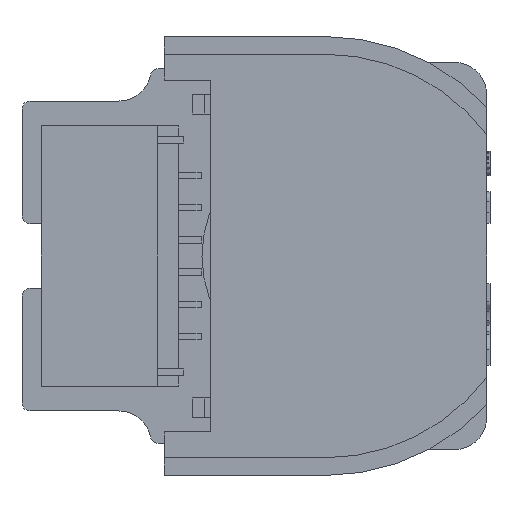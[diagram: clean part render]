
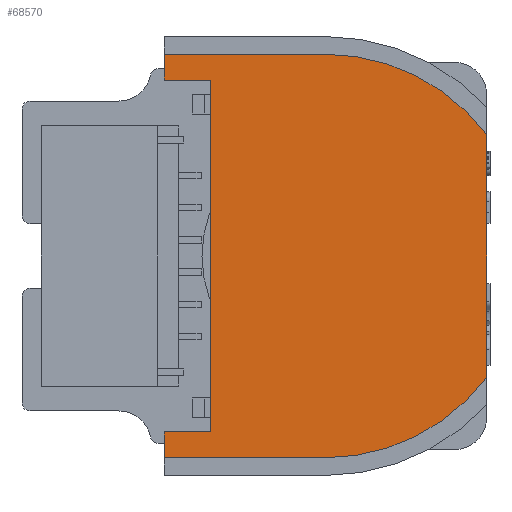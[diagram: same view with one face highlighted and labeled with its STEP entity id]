
A CAD part, left-side view. The second image highlights one B-rep face of the part: STEP entity #68570.
In plain terms, the highlighted planar face has unit normal (-1, 0, 0).
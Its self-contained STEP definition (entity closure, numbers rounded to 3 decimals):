
#908 = EDGE_CURVE ( 'NONE', #28008, #140825, #79042, .T. ) ;
#2618 = CARTESIAN_POINT ( 'NONE',  ( -23., 3.55, -5.45 ) ) ;
#6506 = CARTESIAN_POINT ( 'NONE',  ( -23., 3.55, 5.45 ) ) ;
#10343 = EDGE_LOOP ( 'NONE', ( #111006, #97991, #62967, #62134, #76486, #121813, #84095, #110837, #84216, #25051 ) ) ;
#11157 = DIRECTION ( 'NONE',  ( -1., 0., 0. ) ) ;
#11620 = DIRECTION ( 'NONE',  ( 0., 0., 1. ) ) ;
#19013 = LINE ( 'NONE', #112868, #115854 ) ;
#21356 = CARTESIAN_POINT ( 'NONE',  ( -23., 0., 6.25 ) ) ;
#21452 = CARTESIAN_POINT ( 'NONE',  ( -23., 0., 0. ) ) ;
#22709 = CARTESIAN_POINT ( 'NONE',  ( -23., 5., 5.45 ) ) ;
#25051 = ORIENTED_EDGE ( 'NONE', *, *, #143070, .T. ) ;
#26592 = VECTOR ( 'NONE', #45611, 1000. ) ;
#27750 = VERTEX_POINT ( 'NONE', #92902 ) ;
#28008 = VERTEX_POINT ( 'NONE', #2618 ) ;
#30101 = DIRECTION ( 'NONE',  ( 0., 1., 0. ) ) ;
#31515 = VERTEX_POINT ( 'NONE', #93331 ) ;
#32508 = CARTESIAN_POINT ( 'NONE',  ( -23., 0., 0. ) ) ;
#33330 = DIRECTION ( 'NONE',  ( 0., 0., 1. ) ) ;
#35892 = EDGE_CURVE ( 'NONE', #153982, #27750, #154923, .T. ) ;
#45611 = DIRECTION ( 'NONE',  ( 0., -1., 0. ) ) ;
#46400 = LINE ( 'NONE', #22709, #26592 ) ;
#52000 = CARTESIAN_POINT ( 'NONE',  ( -23., -5., -3.75 ) ) ;
#57154 = CARTESIAN_POINT ( 'NONE',  ( -23., 5., 5.45 ) ) ;
#57198 = DIRECTION ( 'NONE',  ( 0., 0., 1. ) ) ;
#58163 = DIRECTION ( 'NONE',  ( -1., 0., 0. ) ) ;
#61679 = CARTESIAN_POINT ( 'NONE',  ( -23., 5., 6. ) ) ;
#62134 = ORIENTED_EDGE ( 'NONE', *, *, #99974, .T. ) ;
#62967 = ORIENTED_EDGE ( 'NONE', *, *, #908, .T. ) ;
#63723 = AXIS2_PLACEMENT_3D ( 'NONE', #21452, #105805, #33330 ) ;
#65572 = VECTOR ( 'NONE', #90683, 1000. ) ;
#67084 = CARTESIAN_POINT ( 'NONE',  ( -23., 0., -6.25 ) ) ;
#68550 = VERTEX_POINT ( 'NONE', #132079 ) ;
#68570 = ADVANCED_FACE ( 'NONE', ( #119584 ), #70091, .T. ) ;
#69347 = EDGE_CURVE ( 'NONE', #98175, #78037, #91379, .T. ) ;
#70091 = PLANE ( 'NONE',  #151479 ) ;
#74371 = EDGE_CURVE ( 'NONE', #120304, #28008, #126252, .T. ) ;
#76486 = ORIENTED_EDGE ( 'NONE', *, *, #103421, .T. ) ;
#76771 = DIRECTION ( 'NONE',  ( 0., 0., -1. ) ) ;
#77857 = AXIS2_PLACEMENT_3D ( 'NONE', #32508, #11157, #129279 ) ;
#78037 = VERTEX_POINT ( 'NONE', #52000 ) ;
#79042 = LINE ( 'NONE', #112857, #91193 ) ;
#84095 = ORIENTED_EDGE ( 'NONE', *, *, #95075, .T. ) ;
#84216 = ORIENTED_EDGE ( 'NONE', *, *, #35892, .T. ) ;
#84314 = CARTESIAN_POINT ( 'NONE',  ( -23., 3.55, 5.45 ) ) ;
#84819 = CARTESIAN_POINT ( 'NONE',  ( -23., 5., 6.25 ) ) ;
#88745 = LINE ( 'NONE', #136653, #90816 ) ;
#90140 = EDGE_CURVE ( 'NONE', #98744, #120304, #46400, .T. ) ;
#90683 = DIRECTION ( 'NONE',  ( 0., -1., 0. ) ) ;
#90816 = VECTOR ( 'NONE', #57198, 1000. ) ;
#91193 = VECTOR ( 'NONE', #30101, 1000. ) ;
#91379 = CIRCLE ( 'NONE', #63723, 6.25 ) ;
#92902 = CARTESIAN_POINT ( 'NONE',  ( -23., 5., 6.25 ) ) ;
#93331 = CARTESIAN_POINT ( 'NONE',  ( -23., -5., 3.75 ) ) ;
#95075 = EDGE_CURVE ( 'NONE', #78037, #31515, #88745, .T. ) ;
#97991 = ORIENTED_EDGE ( 'NONE', *, *, #74371, .T. ) ;
#98175 = VERTEX_POINT ( 'NONE', #103197 ) ;
#98744 = VERTEX_POINT ( 'NONE', #57154 ) ;
#99974 = EDGE_CURVE ( 'NONE', #140825, #68550, #107357, .T. ) ;
#103197 = CARTESIAN_POINT ( 'NONE',  ( -23., 0., -6.25 ) ) ;
#103421 = EDGE_CURVE ( 'NONE', #68550, #98175, #104032, .T. ) ;
#104032 = LINE ( 'NONE', #67084, #65572 ) ;
#104175 = DIRECTION ( 'NONE',  ( 0., 0., -1. ) ) ;
#105805 = DIRECTION ( 'NONE',  ( -1., 0., 0. ) ) ;
#106574 = VECTOR ( 'NONE', #76771, 1000. ) ;
#107015 = CARTESIAN_POINT ( 'NONE',  ( -23., 0., 0. ) ) ;
#107357 = LINE ( 'NONE', #61679, #127250 ) ;
#110837 = ORIENTED_EDGE ( 'NONE', *, *, #155532, .T. ) ;
#111006 = ORIENTED_EDGE ( 'NONE', *, *, #90140, .T. ) ;
#112857 = CARTESIAN_POINT ( 'NONE',  ( -23., 3.55, -5.45 ) ) ;
#112868 = CARTESIAN_POINT ( 'NONE',  ( -23., 5., 6. ) ) ;
#115854 = VECTOR ( 'NONE', #104175, 1000. ) ;
#119584 = FACE_OUTER_BOUND ( 'NONE', #10343, .T. ) ;
#120051 = CARTESIAN_POINT ( 'NONE',  ( -23., 5., -5.45 ) ) ;
#120304 = VERTEX_POINT ( 'NONE', #84314 ) ;
#121813 = ORIENTED_EDGE ( 'NONE', *, *, #69347, .T. ) ;
#126252 = LINE ( 'NONE', #6506, #106574 ) ;
#127250 = VECTOR ( 'NONE', #145821, 1000. ) ;
#129279 = DIRECTION ( 'NONE',  ( 0., 0., 1. ) ) ;
#132079 = CARTESIAN_POINT ( 'NONE',  ( -23., 5., -6.25 ) ) ;
#132724 = DIRECTION ( 'NONE',  ( 0., 1., 0. ) ) ;
#136653 = CARTESIAN_POINT ( 'NONE',  ( -23., -5., 3.473 ) ) ;
#138323 = VECTOR ( 'NONE', #132724, 1000. ) ;
#140825 = VERTEX_POINT ( 'NONE', #120051 ) ;
#143070 = EDGE_CURVE ( 'NONE', #27750, #98744, #19013, .T. ) ;
#145821 = DIRECTION ( 'NONE',  ( 0., 0., -1. ) ) ;
#151479 = AXIS2_PLACEMENT_3D ( 'NONE', #107015, #58163, #11620 ) ;
#153298 = CIRCLE ( 'NONE', #77857, 6.25 ) ;
#153982 = VERTEX_POINT ( 'NONE', #21356 ) ;
#154923 = LINE ( 'NONE', #84819, #138323 ) ;
#155532 = EDGE_CURVE ( 'NONE', #31515, #153982, #153298, .T. ) ;
